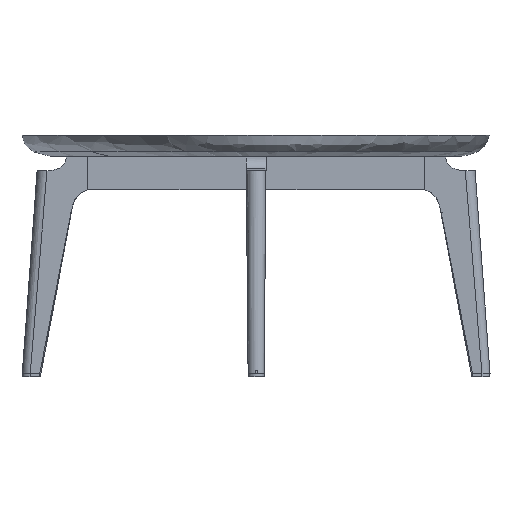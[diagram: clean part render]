
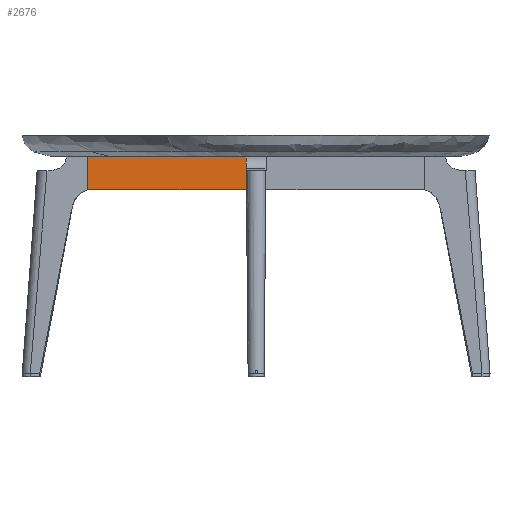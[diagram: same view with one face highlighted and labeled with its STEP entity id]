
A CAD part, left-side view. The second image highlights one B-rep face of the part: STEP entity #2676.
In plain terms, the highlighted planar face has unit normal (-1, 0, -0.009).
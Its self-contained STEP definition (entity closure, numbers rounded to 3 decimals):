
#298=LINE('',#5183,#498);
#306=LINE('',#5197,#506);
#307=LINE('',#5199,#507);
#308=LINE('',#5200,#508);
#498=VECTOR('',#3472,50.009);
#506=VECTOR('',#3486,237.363);
#507=VECTOR('',#3487,50.007);
#508=VECTOR('',#3488,237.825);
#628=PLANE('',#2918);
#800=FACE_OUTER_BOUND('',#990,.T.);
#990=EDGE_LOOP('',(#2292,#2293,#2294,#2295));
#1316=VERTEX_POINT('',#5181);
#1317=VERTEX_POINT('',#5182);
#1320=VERTEX_POINT('',#5196);
#1321=VERTEX_POINT('',#5198);
#1651=EDGE_CURVE('',#1316,#1317,#298,.T.);
#1659=EDGE_CURVE('',#1320,#1317,#306,.T.);
#1660=EDGE_CURVE('',#1320,#1321,#307,.T.);
#1661=EDGE_CURVE('',#1321,#1316,#308,.T.);
#2292=ORIENTED_EDGE('',*,*,#1651,.T.);
#2293=ORIENTED_EDGE('',*,*,#1659,.F.);
#2294=ORIENTED_EDGE('',*,*,#1660,.T.);
#2295=ORIENTED_EDGE('',*,*,#1661,.T.);
#2676=ADVANCED_FACE('',(#800),#628,.T.);
#2918=AXIS2_PLACEMENT_3D('',#5195,#3484,#3485);
#3472=DIRECTION('',(-0.009,0.009,1.));
#3484=DIRECTION('center_axis',(-1.,0.,
-0.009));
#3485=DIRECTION('ref_axis',(0.009,0.,-1.));
#3486=DIRECTION('',(0.,-1.,0.));
#3487=DIRECTION('',(0.009,0.,-1.));
#3488=DIRECTION('',(0.,-1.,0.));
#5181=CARTESIAN_POINT('',(1030.946,1014.584,280.597));
#5182=CARTESIAN_POINT('',(1030.484,1015.046,330.602));
#5183=CARTESIAN_POINT('',(1030.673,1014.858,310.215));
#5195=CARTESIAN_POINT('Origin',(1030.484,1252.41,330.602));
#5196=CARTESIAN_POINT('',(1030.484,1252.41,330.602));
#5197=CARTESIAN_POINT('',(1030.484,1252.41,330.602));
#5198=CARTESIAN_POINT('',(1030.946,1252.41,280.597));
#5199=CARTESIAN_POINT('',(1030.484,1252.41,330.602));
#5200=CARTESIAN_POINT('',(1030.946,1252.41,280.597));
